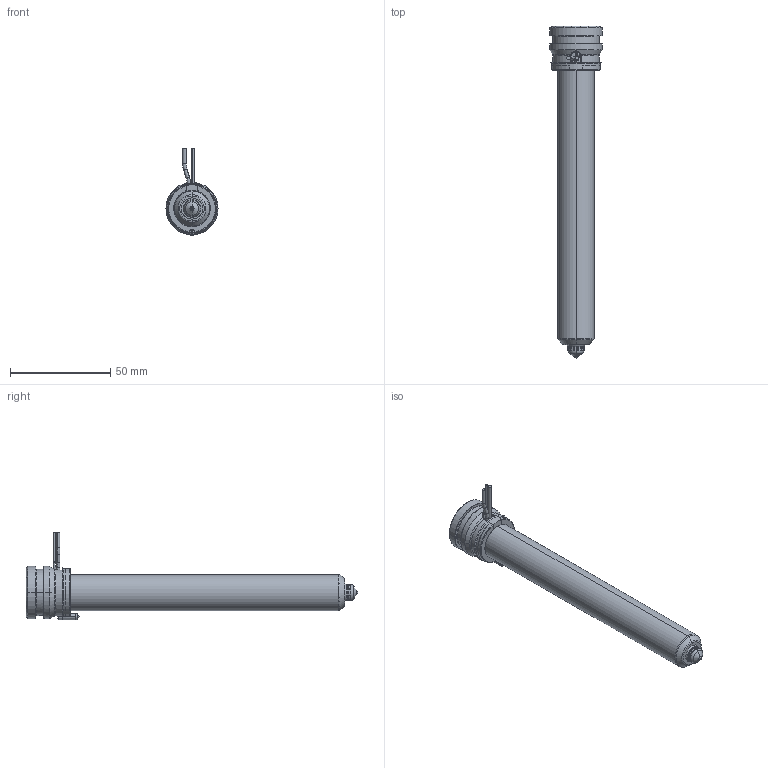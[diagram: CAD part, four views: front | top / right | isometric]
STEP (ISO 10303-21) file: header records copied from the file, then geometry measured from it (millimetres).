
FILE_DESCRIPTION((''),'2;1');
FILE_NAME('MPN-08-24-TX8-146-A','2026-02-05T11:55:04',('UPTIO'),('Thermoplay S.p.A.'),'CREO PARAMETRIC BY PTC INC, 2023494','CREO PARAMETRIC BY PTC INC, 2023494','');
FILE_SCHEMA(('CONFIG_CONTROL_DESIGN','SHAPE_APPEARANCE_LAYERS_GROUPS'));
Length unit declared in the file: millimetre
Products named in the file (1): MPN-08-24-TX8-146-A
Bounding box: 26 x 165.5 x 43.5 mm (x, y, z)
Volume: 31243.8 mm3; surface area: 40469.1 mm2
Topology: 2 solids, 3 shells, 548 faces, 1458 edges, 904 vertices
Faces by surface type: cylinder 180, plane 144, bspline 82, torus 64, cone 60, sphere 12, extrusion 6
Entity records: 29966 total; most frequent: CARTESIAN_POINT 13620, ORIENTED_EDGE 2896, DIRECTION 2574, EDGE_CURVE 1448, AXIS2_PLACEMENT_3D 1006, VERTEX_POINT 904, EDGE_LOOP 576, VECTOR 562
